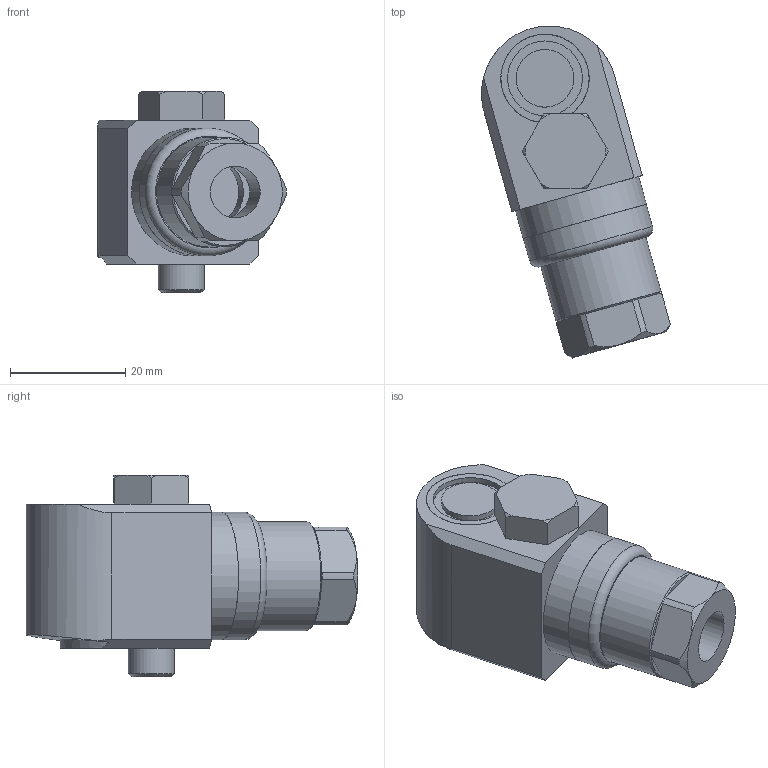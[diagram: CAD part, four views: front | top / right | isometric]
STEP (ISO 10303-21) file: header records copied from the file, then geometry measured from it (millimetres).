
FILE_DESCRIPTION(/* description */ (''),/* implementation_level */ '2;1');
FILE_NAME(/* name */ 'Z:\Engineering\Drawings\3D Library\Assemblies\Website\Premium Side\Compact\HS-170 Side Silicon\HS-170SXXX0708.stp',/* time_stamp */ '2023-03-21T15:44:54+00:00',/* author */ ('Ricardo.Peneda'),/* organization */ (''),/* preprocessor_version */ 'ST-DEVELOPER v18.1',/* originating_system */ 'Autodesk Inventor 2021',/* authorisation */ '');
FILE_SCHEMA (('AUTOMOTIVE_DESIGN { 1 0 10303 214 3 1 1 }'));
Length unit declared in the file: inch
Products named in the file (1): HS-170SXXX0708_Shrinkwrap_1
Bounding box: 32.78 x 57.62 x 35 mm (x, y, z)
Volume: 16580.9 mm3; surface area: 11340.3 mm2
Topology: 5 solids, 5 shells, 100 faces, 251 edges, 177 vertices
Faces by surface type: plane 47, cylinder 36, cone 16, torus 1
Full cylindrical faces by diameter (mm): 2.5 x1, 6 x1, 6.4 x1, 7 x1, 8 x1, 9 x1, 10 x1, 12 x2, 13 x1, 14 x1, 14.9 x1, 15 x2, 15.34 x1, 15.35 x1, 18 x1, 19 x1, 19.95 x1, 20 x1, 22.2 x2
Entity records: 3269 total; most frequent: CARTESIAN_POINT 606, DIRECTION 564, ORIENTED_EDGE 502, EDGE_CURVE 251, AXIS2_PLACEMENT_3D 238, VERTEX_POINT 177, CIRCLE 126, EDGE_LOOP 124
